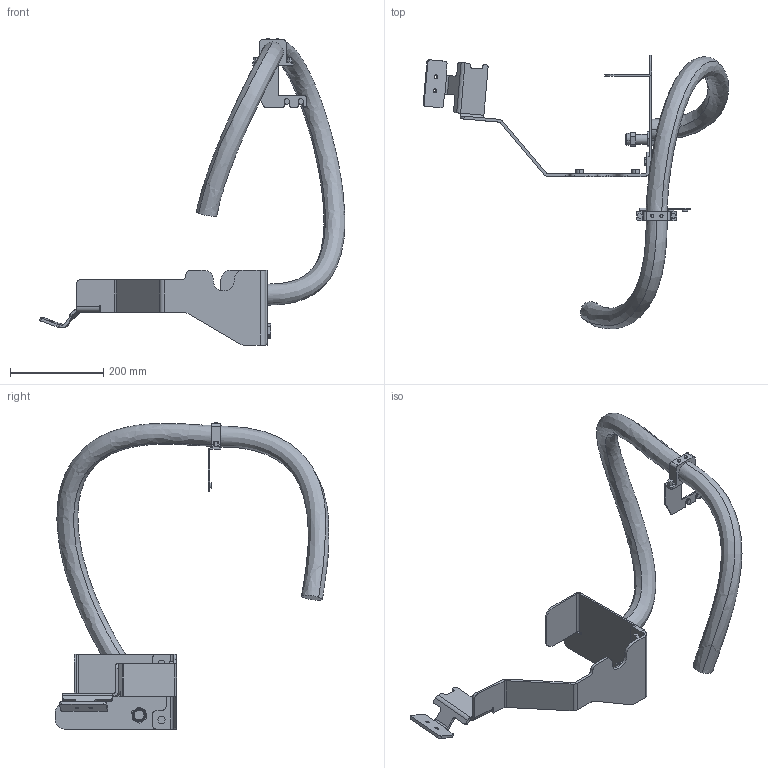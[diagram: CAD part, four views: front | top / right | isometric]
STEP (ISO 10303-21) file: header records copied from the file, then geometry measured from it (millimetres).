
FILE_DESCRIPTION (( 'STEP AP214' ), '1' );
FILE_NAME ('IRB5720-MH3_125kg-300_OC_01_LINK03a_CABLE.step', '2025-07-08T11:12:53', ( '' ), ( '' ), 'SwSTEP 2.0', 'SolidWorks 2024', '' );
FILE_SCHEMA (( 'AUTOMOTIVE_DESIGN' ));
Length unit declared in the file: millimetre
Products named in the file (1): IRB5720-MH3_125kg-300_OC_01_LINK03a_CABLE
Bounding box: 654.17 x 586.31 x 655.5 mm (x, y, z)
Volume: 2859268.6 mm3; surface area: 440841.2 mm2
Topology: 1 solids, 2 shells, 268 faces, 711 edges, 464 vertices
Faces by surface type: plane 156, cylinder 94, cone 12, bspline 4, torus 2
Entity records: 12548 total; most frequent: CARTESIAN_POINT 2734, DIRECTION 1459, ORIENTED_EDGE 1422, EDGE_CURVE 711, AXIS2_PLACEMENT_3D 493, LINE 473, VECTOR 473, VERTEX_POINT 464
